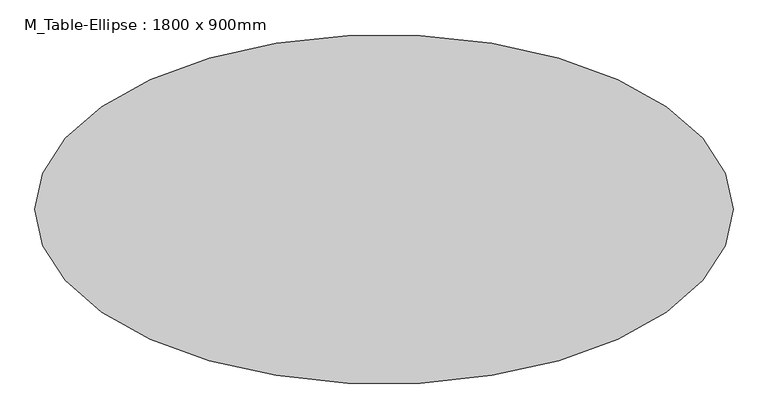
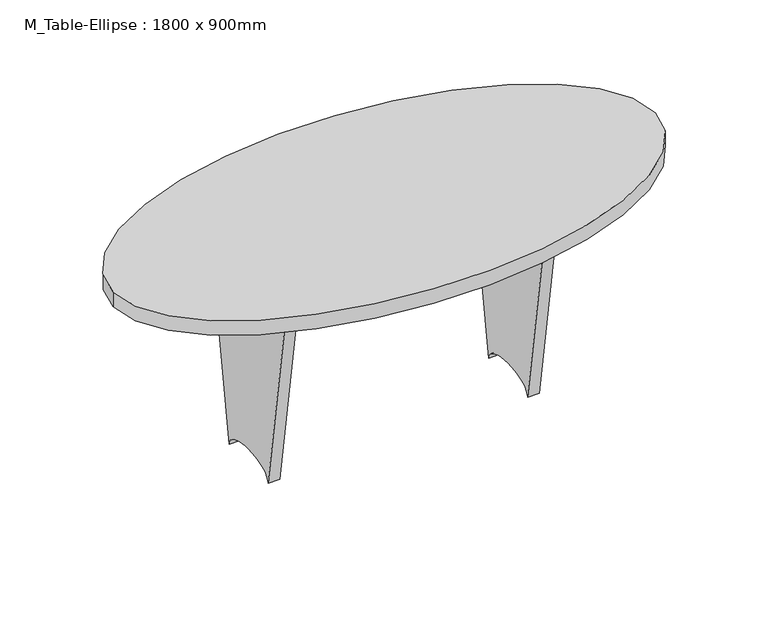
"""IFC4 building model written with IfcOpenShell, lengths in millimetres: furniture geometry, M_Table-Ellipse : 1800 x 900mm."""

from ifc_helpers import new_model, si_unit, point, frame, origin, place, context, project, spatial, ellipse_curve, trimmed, source, transform, mapped, element, save
from ifc_brep_helpers import plane_surface, extruded_surface, advanced_brep


def m_table_ellipse_1800_x_900mm_f7269293(model_context):
    return source(origin(), model_context, "Body", "AdvancedBrep", [
        advanced_brep(
        [(-411.9, -19.05, 709.2), (-411.9, -19.05, 472.8), (411.9, -19.05, 472.8), (411.9, -19.05, 709.2), (-411.9, 19.05, 709.2), (411.9, 19.05, 709.2), (411.9, 19.05, 472.8), (-411.9, 19.05, 472.8)],
        [
            (0, 1),
            (1, 2, ellipse_curve(frame((0.0, -19.05, 472.8), z_axis=(0.0, 1.0, 0.0), x_axis=(1.0, 0.0, 0.0)), 411.9, 101.6)),
            (2, 3),
            (3, 0),
            (4, 5),
            (5, 6),
            (6, 7, ellipse_curve(frame((0.0, 19.05, 472.8), z_axis=(0.0, -1.0, 0.0), x_axis=(1.0, 0.0, 0.0)), 411.9, 101.6)),
            (7, 4),
            (3, 5),
            (4, 0),
            (2, 6),
            (1, 7),
        ],
        [
            plane_surface(frame((-411.9, -19.05, 709.2), z_axis=(0.0, -1.0, 0.0), x_axis=(1.0, 0.0, 0.0))),
            plane_surface(frame((-411.9, 19.05, 709.2), z_axis=(0.0, 1.0, 0.0), x_axis=(-1.0, 0.0, 0.0))),
            plane_surface(frame((-411.9, -19.05, 709.2), z_axis=(0.0, 0.0, 1.0), x_axis=(0.0, 1.0, 0.0))),
            plane_surface(frame((411.9, -19.05, 709.2), z_axis=(1.0, 0.0, 0.0), x_axis=(0.0, 1.0, 0.0))),
            extruded_surface(trimmed(ellipse_curve(frame((0.0, 19.05, 472.8), z_axis=(0.0, -1.0, 0.0), x_axis=(1.0, 0.0, 0.0)), 411.9, 101.6), [point((411.9, 19.05, 472.8))], [point((-411.9, 19.05, 472.8))], True, "CARTESIAN"), (0.0, 38.099999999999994, 0.0), 38.099999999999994),
            plane_surface(frame((-411.9, -19.05, 472.8), z_axis=(-1.0, 0.0, 0.0), x_axis=(0.0, 1.0, 0.0))),
        ],
        [
            (0, [[1, 2, 3, 4]]),
            (1, [[5, 6, 7, 8]]),
            (2, [[9, -5, 10, -4]]),
            (3, [[11, -6, -9, -3]]),
            (4, [[12, -7, -11, -2]]),
            (5, [[-10, -8, -12, -1]]),
        ],
    ),
        advanced_brep(
        [(450.0, -225.0, 709.2), (450.0, -112.5, 0.0), (450.0, 112.5, 0.0), (450.0, 225.0, 709.2), (411.9, -225.0, 709.2), (411.9, 225.0, 709.2), (411.9, 112.5, 0.0), (411.9, -112.5, 0.0)],
        [
            (0, 1),
            (1, 2, ellipse_curve(frame((450.0, 0.0, 0.0), z_axis=(-1.0, 0.0, 0.0), x_axis=(0.0, -1.0, 0.0)), 112.5, 50.8)),
            (2, 3),
            (3, 0),
            (4, 5),
            (5, 6),
            (6, 7, ellipse_curve(frame((411.9, 0.0, 0.0), z_axis=(1.0, 0.0, 0.0), x_axis=(0.0, -1.0, 0.0)), 112.5, 50.8)),
            (7, 4),
            (3, 5),
            (4, 0),
            (2, 6),
            (1, 7),
        ],
        [
            plane_surface(frame((450.0, 225.0, 709.2), z_axis=(1.0, 0.0, 0.0), x_axis=(0.0, 1.0, 0.0))),
            plane_surface(frame((411.9, 225.0, 709.2), z_axis=(-1.0, 0.0, 0.0), x_axis=(0.0, -1.0, 0.0))),
            plane_surface(frame((450.0, -225.0, 709.2), z_axis=(0.0, 0.0, 1.0), x_axis=(-1.0, 0.0, 0.0))),
            plane_surface(frame((450.0, 225.0, 709.2), z_axis=(0.0, 0.9876509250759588, -0.1566705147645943), x_axis=(-1.0, 0.0, 0.0))),
            extruded_surface(trimmed(ellipse_curve(frame((411.9, 0.0, 0.0), z_axis=(1.0, 0.0, 0.0), x_axis=(0.0, -1.0, 0.0)), 112.5, 50.8), [point((411.9, 112.5, 0.0))], [point((411.9, -112.5, 0.0))], True, "CARTESIAN"), (-38.099999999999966, 0.0, 0.0), 38.099999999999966),
            plane_surface(frame((450.0, -112.5, 0.0), z_axis=(0.0, -0.9876509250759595, -0.1566705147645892), x_axis=(-1.0, 0.0, 0.0))),
        ],
        [
            (0, [[1, 2, 3, 4]]),
            (1, [[5, 6, 7, 8]]),
            (2, [[9, -5, 10, -4]]),
            (3, [[11, -6, -9, -3]]),
            (4, [[12, -7, -11, -2]]),
            (5, [[-10, -8, -12, -1]]),
        ],
    ),
        advanced_brep(
        [(-411.9, -225.0, 709.2), (-411.9, -112.5, 0.0), (-411.9, 112.5, 0.0), (-411.9, 225.0, 709.2), (-450.0, -225.0, 709.2), (-450.0, 225.0, 709.2), (-450.0, 112.5, 0.0), (-450.0, -112.5, 0.0)],
        [
            (0, 1),
            (1, 2, ellipse_curve(frame((-411.9, 0.0, 0.0), z_axis=(-1.0, 0.0, 0.0), x_axis=(0.0, -1.0, 0.0)), 112.5, 50.8)),
            (2, 3),
            (3, 0),
            (4, 5),
            (5, 6),
            (6, 7, ellipse_curve(frame((-450.0, 0.0, 0.0), z_axis=(1.0, 0.0, 0.0), x_axis=(0.0, -1.0, 0.0)), 112.5, 50.8)),
            (7, 4),
            (3, 5),
            (4, 0),
            (2, 6),
            (1, 7),
        ],
        [
            plane_surface(frame((-411.9, 225.0, 709.2), z_axis=(1.0, 0.0, 0.0), x_axis=(0.0, 1.0, 0.0))),
            plane_surface(frame((-450.0, 225.0, 709.2), z_axis=(-1.0, 0.0, 0.0), x_axis=(0.0, -1.0, 0.0))),
            plane_surface(frame((-411.9, -225.0, 709.2), z_axis=(0.0, 0.0, 1.0), x_axis=(-1.0, 0.0, 0.0))),
            plane_surface(frame((-411.9, 225.0, 709.2), z_axis=(0.0, 0.9876509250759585, -0.15667051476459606), x_axis=(-1.0, 0.0, 0.0))),
            extruded_surface(trimmed(ellipse_curve(frame((-450.0, 0.0, 0.0), z_axis=(1.0, 0.0, 0.0), x_axis=(0.0, -1.0, 0.0)), 112.5, 50.8), [point((-450.0, 112.5, 0.0))], [point((-450.0, -112.5, 0.0))], True, "CARTESIAN"), (-38.10000000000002, 0.0, 0.0), 38.10000000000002),
            plane_surface(frame((-411.9, -112.5, 0.0), z_axis=(0.0, -0.9876509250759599, -0.1566705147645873), x_axis=(-1.0, 0.0, 0.0))),
        ],
        [
            (0, [[1, 2, 3, 4]]),
            (1, [[5, 6, 7, 8]]),
            (2, [[9, -5, 10, -4]]),
            (3, [[11, -6, -9, -3]]),
            (4, [[12, -7, -11, -2]]),
            (5, [[-10, -8, -12, -1]]),
        ],
    ),
        advanced_brep(
        [(-900.0, 0.0, 760.0), (900.0, 0.0, 760.0), (-900.0, 0.0, 709.2), (900.0, 0.0, 709.2)],
        [
            (0, 1, ellipse_curve(frame((0.0, 0.0, 760.0), z_axis=(0.0, 0.0, 1.0), x_axis=(1.0, 0.0, 0.0)), 900.0, 450.0)),
            (1, 0, ellipse_curve(frame((0.0, 0.0, 760.0), z_axis=(0.0, 0.0, 1.0), x_axis=(1.0, 0.0, 0.0)), 900.0, 450.0)),
            (2, 3, ellipse_curve(frame((0.0, 0.0, 709.2), z_axis=(0.0, 0.0, -1.0), x_axis=(1.0, 0.0, 0.0)), 900.0, 450.0)),
            (3, 2, ellipse_curve(frame((0.0, 0.0, 709.2), z_axis=(0.0, 0.0, -1.0), x_axis=(1.0, 0.0, 0.0)), 900.0, 450.0)),
            (1, 3),
            (2, 0),
        ],
        [
            plane_surface(frame((900.0, 0.0, 760.0), z_axis=(0.0, 0.0, 1.0), x_axis=(0.0, -1.0, 0.0))),
            plane_surface(frame((900.0, 0.0, 709.2), z_axis=(0.0, 0.0, -1.0), x_axis=(0.0, 1.0, 0.0))),
            extruded_surface(trimmed(ellipse_curve(frame((0.0, 0.0, 709.2), z_axis=(0.0, 0.0, -1.0), x_axis=(1.0, 0.0, 0.0)), 900.0, 450.0), [point((-900.0, 0.0, 709.2))], [point((900.0, 0.0, 709.2))], True, "CARTESIAN"), (0.0, 0.0, -50.80000000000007), 50.80000000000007),
            extruded_surface(trimmed(ellipse_curve(frame((0.0, 0.0, 709.2), z_axis=(0.0, 0.0, -1.0), x_axis=(1.0, 0.0, 0.0)), 900.0, 450.0), [point((900.0, 0.0, 709.2))], [point((-900.0, 0.0, 709.2))], True, "CARTESIAN"), (0.0, 0.0, -50.80000000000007), 50.80000000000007),
        ],
        [
            (0, [[1, 2]]),
            (1, [[3, 4]]),
            (2, [[5, -3, 6, -2]]),
            (3, [[-6, -4, -5, -1]]),
        ],
    ),
    ])


if __name__ == "__main__":
    model = new_model("IFC4")
    model_context = context("Model", 3, world=origin())
    ifc_project = project(units=[si_unit("LENGTHUNIT", "METRE", prefix="MILLI")], contexts=[model_context])
    site = spatial("IfcSite", under=ifc_project)
    building = spatial("IfcBuilding", under=site)
    placement = place(None, origin())
    m_table_ellipse_1800_x_900mm_shape = m_table_ellipse_1800_x_900mm_f7269293(model_context)
    element("IfcFurniture", 1, ObjectType="M_Table-Ellipse : 1800 x 900mm", at=placement, inside=building, context=model_context, shape_type="MappedRepresentation", body=[
        mapped(m_table_ellipse_1800_x_900mm_shape, transform((0.0, 0.0, 0.0), x_axis=(1.0, 0.0, 0.0), y_axis=(0.0, 1.0, 0.0), z_axis=(0.0, 0.0, 1.0))),
    ])
    save(model, "model.ifc")
